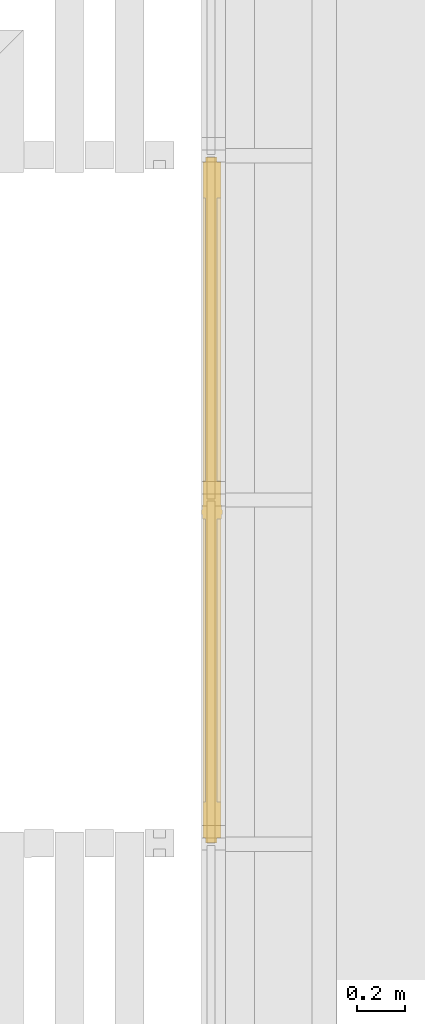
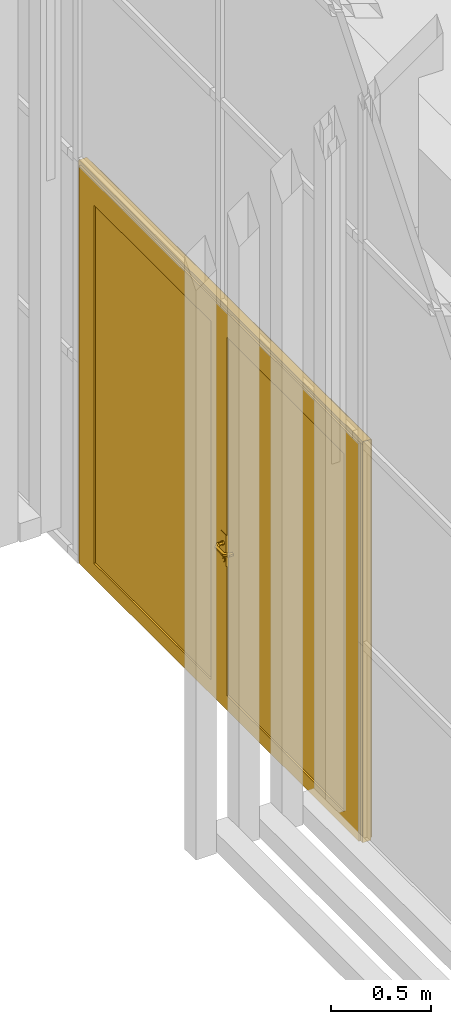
# One storey, part 240 of 260: 1 door, 1 element without a shape of its own.
"""IFC2X3 building model written with IfcOpenShell, lengths in millimetres."""

from ifc_helpers import new_model, entity, si_unit, converted_unit, derived_unit, money_unit, direction, frame, origin_with_axes, place, context, subcontext, project, spatial, open_shell, faceted_brep, surface_model, material, material_list, type_object, element, aggregate, save


model = new_model("IFC2X3")

# Units and contexts
model_context = context("Model", 3, precision=0.01, world=origin_with_axes(), true_north=direction((0.0, 1.0)))
body_context = subcontext(model_context, "Body", "Model", "MODEL_VIEW")
ifc_project = project(units=[si_unit("LENGTHUNIT", "METRE", prefix="MILLI"), si_unit("AREAUNIT", "SQUARE_METRE"), si_unit("VOLUMEUNIT", "CUBIC_METRE"), converted_unit("PLANEANGLEUNIT", "DEGREE", entity("IfcPlaneAngleMeasure", 0.0174532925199), si_unit("PLANEANGLEUNIT", "RADIAN"), dimensions=[0, 0, 0, 0, 0, 0, 0]), money_unit("EUR"), converted_unit("TIMEUNIT", "Year", entity("IfcTimeMeasure", 31556926.0), si_unit("TIMEUNIT", "SECOND"), dimensions=[0, 0, 1, 0, 0, 0, 0]), si_unit("MASSUNIT", "GRAM", prefix="KILO"), si_unit("THERMODYNAMICTEMPERATUREUNIT", "DEGREE_CELSIUS"), si_unit("LUMINOUSINTENSITYUNIT", "LUMEN"), si_unit("ENERGYUNIT", "JOULE", prefix="MEGA"), derived_unit("THERMALCONDUCTANCEUNIT", [(si_unit("POWERUNIT", "WATT"), 1), (si_unit("LENGTHUNIT", "METRE"), -1), (si_unit("THERMODYNAMICTEMPERATUREUNIT", "KELVIN"), -1)]), derived_unit("SPECIFICHEATCAPACITYUNIT", [(si_unit("ENERGYUNIT", "JOULE"), 1), (si_unit("MASSUNIT", "GRAM", prefix="KILO"), -1), (si_unit("THERMODYNAMICTEMPERATUREUNIT", "KELVIN"), -1)]), derived_unit("MASSDENSITYUNIT", [(si_unit("MASSUNIT", "GRAM", prefix="KILO"), 1), (si_unit("VOLUMEUNIT", "CUBIC_METRE"), -1)])], contexts=[model_context])

# Site, building, storey
site_placement = place(None, origin_with_axes())
site = spatial("IfcSite", under=ifc_project, at=site_placement, Name="Kolde pst 67a", CompositionType="ELEMENT")
building_placement = place(site_placement, origin_with_axes())
building = spatial("IfcBuilding", under=site, at=building_placement, Name="Riigigümnaasium", CompositionType="ELEMENT")
storey_placement = place(building_placement, origin_with_axes())
storey = spatial("IfcBuildingStorey", under=building, at=storey_placement, Name="1. korrus", CompositionType="ELEMENT", Elevation=0.0)

# Curtain wall, door
curtain_wall_type = type_object("IfcCurtainWallType", Name="Curtain Wall Type", PredefinedType="NOTDEFINED")
curtain_wall_placement = place(storey_placement, frame((47829.9854655, 8727.77020058, -0.000749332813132), z_axis=(0.0, 0.0, 1.0), x_axis=(1.0, 0.0, 0.0)))
curtain_wall = element("IfcCurtainWall", 1, at=curtain_wall_placement, inside=storey, type_object=curtain_wall_type, Name="KLAASFASSAAD")
ifc_material_1 = material(Name="_METALL - alumiinium")
ifc_material_2 = material(Name="_KLAAS - kirgas")
ifc_material_3 = material(Name="_METALL - roostevaba terasleht, harjatud, 1mm")
ifc_material_list = material_list([ifc_material_1, ifc_material_2, ifc_material_3])
door_style = type_object("IfcDoorStyle", Name="72 x 1225 x 48", ConstructionType="NOTDEFINED", OperationType="DOUBLE_DOOR_SINGLE_SWING", ParameterTakesPrecedence=False, Sizeable=False)
door_placement = place(curtain_wall_placement, frame((-1.10641664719e-05, 12136.8820232, 1341.81865867), z_axis=(0.0, 0.0, 1.0), x_axis=(-9.1161639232e-10, 1.0, 0.0)))
door = element("IfcDoor", 2, at=door_placement, type_object=door_style, material=ifc_material_list, Name="Kahepoolne välisuks", ObjectType="DOOR", OverallHeight=2435.0, OverallWidth=2810.0, context=body_context, shape_type="SurfaceModel", body=[
    surface_model("IfcShellBasedSurfaceModel", [(1636.90908224, -41.0, -1341.81865867), (1636.90908224, -41.0, 993.182073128), (1536.90908224, -41.0, 993.182073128), (1536.90908224, -41.0, -1341.81865867)], [open_shell([[[0, 1, 2, 3]]])]),
    surface_model("IfcShellBasedSurfaceModel", [(-1173.09098167, -41.0, 1093.18207313), (-1173.09098167, -41.0, 993.182073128), (1636.90908224, -41.0, 993.182073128), (1636.90908224, -41.0, 1093.18207313)], [open_shell([[[0, 1, 2, 3]]])]),
    surface_model("IfcShellBasedSurfaceModel", [(-1173.09098167, -41.0, -1341.81865867), (-1073.09098167, -41.0, -1341.81865867), (-1073.09098167, -41.0, 993.182073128), (-1173.09098167, -41.0, 993.182073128)], [open_shell([[[0, 1, 2, 3]]])]),
    faceted_brep([(1636.90908224, -41.0, -1341.81865867), (1636.90908224, 34.0, -1341.81865867), (1636.90908224, 34.0, 1023.18207313), (1636.90908224, -41.0, 1023.18207313), (1566.90908224, -41.0, -1341.81865867), (1566.90908224, 34.0, -1341.81865867), (1566.90908224, 34.0, 1023.18207313), (1566.90908224, -41.0, 1023.18207313)], [[[0, 1, 2, 3]], [[4, 5, 1, 0]], [[1, 5, 6, 2]], [[3, 2, 6, 7]], [[0, 3, 7, 4]], [[7, 6, 5, 4]]]),
    faceted_brep([(-1173.09098167, -41.0, 1093.18207313), (-1173.09098167, 34.0, 1093.18207313), (-1173.09098167, 34.0, 1023.18207313), (-1173.09098167, -41.0, 1023.18207313), (1636.90908224, -41.0, 1093.18207313), (1636.90908224, 34.0, 1093.18207313), (1636.90908224, 34.0, 1023.18207313), (1636.90908224, -41.0, 1023.18207313)], [[[0, 1, 2, 3]], [[4, 5, 1, 0]], [[1, 5, 6, 2]], [[3, 2, 6, 7]], [[0, 3, 7, 4]], [[7, 6, 5, 4]]]),
    faceted_brep([(-1173.09098167, -41.0, -1341.81865867), (-1173.09098167, 34.0, -1341.81865867), (-1103.09098167, 34.0, -1341.81865867), (-1103.09098167, -41.0, -1341.81865867), (-1173.09098167, -41.0, 1023.18207313), (-1173.09098167, 34.0, 1023.18207313), (-1103.09098167, 34.0, 1023.18207313), (-1103.09098167, -41.0, 1023.18207313)], [[[0, 1, 2, 3]], [[4, 5, 1, 0]], [[1, 5, 6, 2]], [[3, 2, 6, 7]], [[0, 3, 7, 4]], [[7, 6, 5, 4]]]),
    faceted_brep([(1566.90908224, -41.0, -1341.81865867), (1566.90908224, 34.0, -1341.81865867), (1566.90908224, 34.0, -1331.81865867), (1566.90908224, -41.0, -1331.81865867), (-1103.09098167, -41.0, -1341.81865867), (-1103.09098167, 34.0, -1341.81865867), (-1103.09098167, 34.0, -1331.81865867), (-1103.09098167, -41.0, -1331.81865867)], [[[0, 1, 2, 3]], [[4, 5, 1, 0]], [[1, 5, 6, 2]], [[3, 2, 6, 7]], [[0, 3, 7, 4]], [[7, 6, 5, 4]]]),
    faceted_brep([(1656.90906934, -24.0, -1341.81865867), (1656.90906934, 24.0, -1341.81865867), (1656.90906934, 24.0, 1113.18210285), (1656.90906934, -24.0, 1113.18210285), (1636.90908224, -24.0, -1341.81865867), (1636.90908224, 24.0, -1341.81865867), (1636.90908224, 24.0, 1093.18207313), (1636.90908224, -24.0, 1093.18207313)], [[[0, 1, 2, 3]], [[4, 5, 1, 0]], [[1, 5, 6, 2]], [[3, 2, 6, 7]], [[0, 3, 7, 4]], [[7, 6, 5, 4]]]),
    faceted_brep([(1656.90906934, -24.0, 1113.18210285), (1656.90906934, 24.0, 1113.18210285), (-1193.09096878, 24.0, 1113.18210285), (-1193.09096878, -24.0, 1113.18210285), (1636.90908224, -24.0, 1093.18207313), (1636.90908224, 24.0, 1093.18207313), (-1173.09098167, 24.0, 1093.18207313), (-1173.09098167, -24.0, 1093.18207313)], [[[0, 1, 2, 3]], [[4, 5, 1, 0]], [[1, 5, 6, 2]], [[3, 2, 6, 7]], [[0, 3, 7, 4]], [[7, 6, 5, 4]]]),
    faceted_brep([(-1193.09096878, -24.0, 1113.18210285), (-1193.09096878, 24.0, 1113.18210285), (-1193.09096878, 24.0, -1341.81865867), (-1193.09096878, -24.0, -1341.81865867), (-1173.09098167, -24.0, 1093.18207313), (-1173.09098167, 24.0, 1093.18207313), (-1173.09098167, 24.0, -1341.81865867), (-1173.09098167, -24.0, -1341.81865867)], [[[0, 1, 2, 3]], [[4, 5, 1, 0]], [[1, 5, 6, 2]], [[3, 2, 6, 7]], [[0, 3, 7, 4]], [[7, 6, 5, 4]]]),
    faceted_brep([(-1023.09098167, -41.0, -1251.81865867), (-1023.09098167, 34.0, -1251.81865867), (-1023.09098167, 34.0, 943.182073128), (-1023.09098167, -41.0, 943.182073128), (-1103.09098167, -41.0, -1251.81865867), (-1103.09098167, 34.0, -1251.81865867), (-1103.09098167, 34.0, 943.182073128), (-1103.09098167, -41.0, 943.182073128)], [[[0, 1, 2, 3]], [[4, 5, 1, 0]], [[1, 5, 6, 2]], [[3, 2, 6, 7]], [[0, 3, 7, 4]], [[7, 6, 5, 4]]]),
    faceted_brep([(231.909050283, -41.0, -1251.81865867), (231.909050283, 34.0, -1251.81865867), (231.909050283, 34.0, 943.182073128), (231.909050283, -41.0, 943.182073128), (151.909050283, -41.0, -1251.81865867), (151.909050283, 34.0, -1251.81865867), (151.909050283, 34.0, 943.182073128), (151.909050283, -41.0, 943.182073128)], [[[0, 1, 2, 3]], [[4, 5, 1, 0]], [[1, 5, 6, 2]], [[3, 2, 6, 7]], [[0, 3, 7, 4]], [[7, 6, 5, 4]]]),
    faceted_brep([(231.909050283, -41.0, -1331.81865867), (231.909050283, 34.0, -1331.81865867), (231.909050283, 34.0, -1251.81865867), (231.909050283, -41.0, -1251.81865867), (-1103.09098167, -41.0, -1331.81865867), (-1103.09098167, 34.0, -1331.81865867), (-1103.09098167, 34.0, -1251.81865867), (-1023.09098167, 34.0, -1251.81865867), (151.909050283, 34.0, -1251.81865867), (151.909050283, -41.0, -1251.81865867), (-1023.09098167, -41.0, -1251.81865867), (-1103.09098167, -41.0, -1251.81865867)], [[[0, 1, 2, 3]], [[4, 5, 1, 0]], [[1, 5, 6, 7, 8, 2]], [[3, 2, 8, 9]], [[0, 3, 9, 10, 11, 4]], [[11, 6, 5, 4]], [[10, 7, 6, 11]], [[9, 8, 7, 10]]]),
    surface_model("IfcShellBasedSurfaceModel", [(-1103.09098167, -41.0, 1023.18207313), (-1103.09098167, 34.0, 1023.18207313), (-1103.09098167, 34.0, 943.182073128), (-1103.09098167, -41.0, 943.182073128), (231.909050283, -41.0, 1023.18207313), (231.909050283, 34.0, 1023.18207313), (231.909050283, 34.0, 943.182073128), (151.909050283, 34.0, 943.182073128), (-1023.09098167, 34.0, 943.182073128), (-1023.09098167, -41.0, 943.182073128), (151.909050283, -41.0, 943.182073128), (231.909050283, -41.0, 943.182073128)], [open_shell([[[0, 1, 2, 3]], [[4, 5, 1, 0]], [[1, 5, 6, 7, 8, 2]], [[3, 2, 8, 9]], [[0, 3, 9, 10, 11, 4]], [[10, 7, 6, 11]], [[9, 8, 7, 10]]])]),
    faceted_brep([(-1023.09098167, -24.0, -1251.81865867), (-1023.09098167, 24.0, -1251.81865867), (151.909050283, 24.0, -1251.81865867), (151.909050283, -24.0, -1251.81865867), (-1023.09098167, -24.0, 943.182073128), (-1023.09098167, 24.0, 943.182073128), (151.909050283, 24.0, 943.182073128), (151.909050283, -24.0, 943.182073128)], [[[0, 1, 2, 3]], [[4, 5, 1, 0]], [[1, 5, 6, 2]], [[3, 2, 6, 7]], [[0, 3, 7, 4]], [[7, 6, 5, 4]]]),
    faceted_brep([(210.409050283, 34.0, -271.818658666), (210.409050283, 37.0, -271.818658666), (153.409050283, 37.0, -271.818658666), (153.409050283, 34.0, -271.818658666), (210.409050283, 34.0, -461.818658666), (210.409050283, 37.0, -461.818658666), (153.409050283, 37.0, -461.818658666), (153.409050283, 34.0, -461.818658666)], [[[0, 1, 2, 3]], [[4, 5, 1, 0]], [[1, 5, 6, 2]], [[3, 2, 6, 7]], [[0, 3, 7, 4]], [[7, 6, 5, 4]]]),
    faceted_brep([(178.20084635, 47.0, -343.231336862), (177.891829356, 37.0, -344.182393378), (168.909050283, 37.0, -331.818658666), (169.909050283, 47.0, -331.818658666), (191.617254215, 47.0, -338.872081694), (192.42627121, 37.0, -339.459866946), (192.42627121, 37.0, -324.177450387), (177.891829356, 37.0, -319.454923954), (178.20084635, 47.0, -320.405980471), (191.617254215, 47.0, -324.765235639)], [[[0, 1, 2, 3]], [[4, 5, 1, 0]], [[2, 1, 5, 6, 7]], [[3, 2, 7, 8]], [[3, 8, 9, 4, 0]], [[9, 6, 5, 4]], [[8, 7, 6, 9]]]),
    faceted_brep([(175.728710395, 41.0, -445.839788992), (175.110676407, 37.0, -447.741902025), (159.909050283, 37.0, -426.818658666), (161.909050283, 41.0, -426.818658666), (198.08939017, 41.0, -438.574363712), (199.707424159, 37.0, -439.749934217), (199.707424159, 37.0, -413.887383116), (175.110676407, 37.0, -405.895415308), (175.728710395, 41.0, -407.79752834), (198.08939017, 41.0, -415.06295362)], [[[0, 1, 2, 3]], [[4, 5, 1, 0]], [[2, 1, 5, 6, 7]], [[3, 2, 7, 8]], [[3, 8, 9, 4, 0]], [[9, 6, 5, 4]], [[8, 7, 6, 9]]]),
    faceted_brep([(179.745931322, 43.0, -424.47605428), (179.436914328, 41.0, -425.427110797), (173.909050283, 41.0, -417.818658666), (174.909050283, 43.0, -417.818658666), (187.572169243, 43.0, -421.933155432), (188.381186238, 41.0, -422.520940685), (188.381186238, 41.0, -413.116376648), (179.436914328, 41.0, -410.210206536), (179.745931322, 43.0, -411.161263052), (187.572169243, 43.0, -413.7041619)], [[[0, 1, 2, 3]], [[4, 5, 1, 0]], [[2, 1, 5, 6, 7]], [[3, 2, 7, 8]], [[3, 8, 9, 4, 0]], [[9, 6, 5, 4]], [[8, 7, 6, 9]]]),
    surface_model("IfcShellBasedSurfaceModel", [(171.909050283, 47.0, -331.818658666), (171.909050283, 62.8578643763, -331.818658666), (178.818880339, 65.7200096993, -341.329223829), (178.818880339, 47.0, -341.329223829), (178.818880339, 47.0, -322.308093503), (178.818880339, 65.7200096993, -322.308093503), (157.766914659, 77.0, -331.818658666), (160.629059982, 83.9098300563, -341.329223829), (189.999220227, 70.3510581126, -337.696511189), (189.999220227, 47.0, -337.696511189), (189.999220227, 47.0, -325.940806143), (189.999220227, 70.3510581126, -325.940806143), (160.629059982, 83.9098300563, -322.308093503), (96.0511859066, 77.0, -331.818658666), (93.1890405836, 83.9098300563, -341.329223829), (165.260108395, 95.0901699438, -337.696511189), (165.260108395, 95.0901699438, -325.940806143), (93.1890405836, 83.9098300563, -322.308093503), (81.9090502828, 62.8578643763, -331.818658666), (74.9992202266, 65.7200096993, -341.329223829), (88.5579921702, 95.0901699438, -337.696511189), (88.5579921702, 95.0901699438, -325.940806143), (74.9992202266, 65.7200096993, -322.308093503), (81.9090502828, 47.0, -331.818658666), (74.9992202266, 47.0, -341.329223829), (63.8188803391, 70.3510581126, -337.696511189), (63.8188803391, 70.3510581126, -325.940806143), (74.9992202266, 47.0, -322.308093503), (63.8188803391, 47.0, -325.940806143), (63.8188803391, 47.0, -337.696511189)], [open_shell([[[0, 1, 2, 3]], [[4, 5, 1, 0]], [[1, 6, 7, 2]], [[3, 2, 8, 9]], [[10, 11, 5, 4]], [[5, 12, 6, 1]], [[6, 13, 14, 7]], [[2, 7, 15, 8]], [[9, 8, 11, 10]], [[11, 16, 12, 5]], [[12, 17, 13, 6]], [[13, 18, 19, 14]], [[7, 14, 20, 15]], [[8, 15, 16, 11]], [[16, 21, 17, 12]], [[17, 22, 18, 13]], [[18, 23, 24, 19]], [[14, 19, 25, 20]], [[15, 20, 21, 16]], [[21, 26, 22, 17]], [[22, 27, 23, 18]], [[23, 27, 28, 29, 24]], [[19, 24, 29, 25]], [[20, 25, 26, 21]], [[26, 28, 27, 22]], [[25, 29, 28, 26]]])]),
    faceted_brep([(210.409050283, -41.0, -271.818658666), (153.409050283, -41.0, -271.818658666), (153.409050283, -44.0, -271.818658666), (210.409050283, -44.0, -271.818658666), (210.409050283, -41.0, -461.818658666), (153.409050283, -41.0, -461.818658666), (153.409050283, -44.0, -461.818658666), (210.409050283, -44.0, -461.818658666)], [[[0, 1, 2, 3]], [[0, 4, 5, 1]], [[1, 5, 6, 2]], [[3, 2, 6, 7]], [[4, 0, 3, 7]], [[5, 4, 7, 6]]]),
    faceted_brep([(178.20084635, -54.0, -343.231336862), (169.909050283, -54.0, -331.818658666), (168.909050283, -44.0, -331.818658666), (177.891829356, -44.0, -344.182393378), (191.617254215, -54.0, -338.872081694), (191.617254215, -54.0, -324.765235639), (178.20084635, -54.0, -320.405980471), (177.891829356, -44.0, -319.454923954), (192.42627121, -44.0, -324.177450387), (192.42627121, -44.0, -339.459866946)], [[[0, 1, 2, 3]], [[1, 0, 4, 5, 6]], [[1, 6, 7, 2]], [[2, 7, 8, 9, 3]], [[4, 0, 3, 9]], [[5, 4, 9, 8]], [[6, 5, 8, 7]]]),
    faceted_brep([(175.728710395, -48.0, -445.839788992), (161.909050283, -48.0, -426.818658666), (159.909050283, -44.0, -426.818658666), (175.110676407, -44.0, -447.741902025), (198.08939017, -48.0, -438.574363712), (198.08939017, -48.0, -415.06295362), (175.728710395, -48.0, -407.79752834), (175.110676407, -44.0, -405.895415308), (199.707424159, -44.0, -413.887383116), (199.707424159, -44.0, -439.749934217)], [[[0, 1, 2, 3]], [[1, 0, 4, 5, 6]], [[1, 6, 7, 2]], [[2, 7, 8, 9, 3]], [[4, 0, 3, 9]], [[5, 4, 9, 8]], [[6, 5, 8, 7]]]),
    faceted_brep([(179.745931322, -50.0, -424.47605428), (174.909050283, -50.0, -417.818658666), (173.909050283, -48.0, -417.818658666), (179.436914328, -48.0, -425.427110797), (187.572169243, -50.0, -421.933155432), (187.572169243, -50.0, -413.7041619), (179.745931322, -50.0, -411.161263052), (179.436914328, -48.0, -410.210206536), (188.381186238, -48.0, -413.116376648), (188.381186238, -48.0, -422.520940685)], [[[0, 1, 2, 3]], [[1, 0, 4, 5, 6]], [[1, 6, 7, 2]], [[2, 7, 8, 9, 3]], [[4, 0, 3, 9]], [[5, 4, 9, 8]], [[6, 5, 8, 7]]]),
    surface_model("IfcShellBasedSurfaceModel", [(171.909050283, -54.0, -331.818658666), (178.818880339, -54.0, -341.329223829), (178.818880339, -72.7200096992, -341.329223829), (171.909050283, -69.8578643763, -331.818658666), (189.999220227, -54.0, -337.696511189), (189.999220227, -77.3510581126, -337.696511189), (160.629059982, -90.9098300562, -341.329223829), (157.766914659, -84.0, -331.818658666), (178.818880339, -54.0, -322.308093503), (178.818880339, -72.7200096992, -322.308093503), (189.999220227, -54.0, -325.940806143), (189.999220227, -77.3510581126, -325.940806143), (165.260108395, -102.090169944, -337.696511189), (93.1890405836, -90.9098300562, -341.329223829), (96.0511859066, -84.0, -331.818658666), (160.629059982, -90.9098300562, -322.308093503), (165.260108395, -102.090169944, -325.940806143), (88.5579921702, -102.090169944, -337.696511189), (74.9992202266, -72.7200096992, -341.329223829), (81.9090502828, -69.8578643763, -331.818658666), (93.1890405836, -90.9098300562, -322.308093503), (88.5579921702, -102.090169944, -325.940806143), (63.8188803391, -77.3510581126, -337.696511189), (74.9992202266, -54.0, -341.329223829), (81.9090502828, -54.0, -331.818658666), (74.9992202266, -72.7200096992, -322.308093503), (63.8188803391, -77.3510581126, -325.940806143), (63.8188803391, -54.0, -337.696511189), (63.8188803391, -54.0, -325.940806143), (74.9992202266, -54.0, -322.308093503)], [open_shell([[[0, 1, 2, 3]], [[1, 4, 5, 2]], [[3, 2, 6, 7]], [[8, 0, 3, 9]], [[4, 10, 11, 5]], [[2, 5, 12, 6]], [[7, 6, 13, 14]], [[9, 3, 7, 15]], [[10, 8, 9, 11]], [[5, 11, 16, 12]], [[6, 12, 17, 13]], [[14, 13, 18, 19]], [[15, 7, 14, 20]], [[11, 9, 15, 16]], [[12, 16, 21, 17]], [[13, 17, 22, 18]], [[19, 18, 23, 24]], [[20, 14, 19, 25]], [[16, 15, 20, 21]], [[17, 21, 26, 22]], [[18, 22, 27, 23]], [[24, 23, 27, 28, 29]], [[25, 19, 24, 29]], [[21, 20, 25, 26]], [[22, 26, 28, 27]], [[26, 25, 29, 28]]])]),
    faceted_brep([(311.909050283, -41.0, -1251.81865867), (311.909050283, 34.0, -1251.81865867), (311.909050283, 34.0, 943.182073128), (311.909050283, -41.0, 943.182073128), (231.909050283, -41.0, -1251.81865867), (231.909050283, 34.0, -1251.81865867), (231.909050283, 34.0, 943.182073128), (231.909050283, -41.0, 943.182073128)], [[[0, 1, 2, 3]], [[4, 5, 1, 0]], [[1, 5, 6, 2]], [[3, 2, 6, 7]], [[0, 3, 7, 4]], [[7, 6, 5, 4]]]),
    faceted_brep([(1566.90908224, -41.0, -1251.81865867), (1566.90908224, 34.0, -1251.81865867), (1566.90908224, 34.0, 943.182073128), (1566.90908224, -41.0, 943.182073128), (1486.90908224, -41.0, -1251.81865867), (1486.90908224, 34.0, -1251.81865867), (1486.90908224, 34.0, 943.182073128), (1486.90908224, -41.0, 943.182073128)], [[[0, 1, 2, 3]], [[4, 5, 1, 0]], [[1, 5, 6, 2]], [[3, 2, 6, 7]], [[0, 3, 7, 4]], [[7, 6, 5, 4]]]),
    faceted_brep([(1566.90908224, -41.0, -1331.81865867), (1566.90908224, 34.0, -1331.81865867), (1566.90908224, 34.0, -1251.81865867), (1566.90908224, -41.0, -1251.81865867), (231.909050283, -41.0, -1331.81865867), (231.909050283, 34.0, -1331.81865867), (231.909050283, 34.0, -1251.81865867), (311.909050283, 34.0, -1251.81865867), (1486.90908224, 34.0, -1251.81865867), (1486.90908224, -41.0, -1251.81865867), (311.909050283, -41.0, -1251.81865867), (231.909050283, -41.0, -1251.81865867)], [[[0, 1, 2, 3]], [[4, 5, 1, 0]], [[1, 5, 6, 7, 8, 2]], [[3, 2, 8, 9]], [[0, 3, 9, 10, 11, 4]], [[11, 6, 5, 4]], [[10, 7, 6, 11]], [[9, 8, 7, 10]]]),
    surface_model("IfcShellBasedSurfaceModel", [(231.909050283, -41.0, 1023.18207313), (231.909050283, 34.0, 1023.18207313), (231.909050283, 34.0, 943.182073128), (231.909050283, -41.0, 943.182073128), (1566.90908224, -41.0, 1023.18207313), (1566.90908224, 34.0, 1023.18207313), (1566.90908224, 34.0, 943.182073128), (1486.90908224, 34.0, 943.182073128), (311.909050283, 34.0, 943.182073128), (311.909050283, -41.0, 943.182073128), (1486.90908224, -41.0, 943.182073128), (1566.90908224, -41.0, 943.182073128)], [open_shell([[[0, 1, 2, 3]], [[4, 5, 1, 0]], [[1, 5, 6, 7, 8, 2]], [[3, 2, 8, 9]], [[0, 3, 9, 10, 11, 4]], [[10, 7, 6, 11]], [[9, 8, 7, 10]]])]),
    faceted_brep([(311.909050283, -24.0, -1251.81865867), (311.909050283, 24.0, -1251.81865867), (1486.90908224, 24.0, -1251.81865867), (1486.90908224, -24.0, -1251.81865867), (311.909050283, -24.0, 943.182073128), (311.909050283, 24.0, 943.182073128), (1486.90908224, 24.0, 943.182073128), (1486.90908224, -24.0, 943.182073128)], [[[0, 1, 2, 3]], [[4, 5, 1, 0]], [[1, 5, 6, 2]], [[3, 2, 6, 7]], [[0, 3, 7, 4]], [[7, 6, 5, 4]]]),
])
aggregate(curtain_wall, [door])

save(model, "model.ifc")
